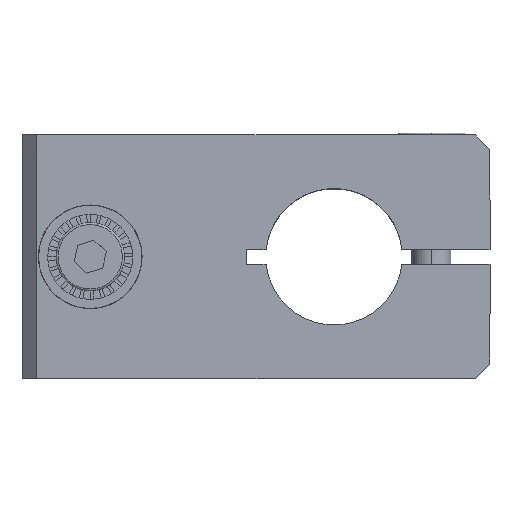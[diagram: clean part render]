
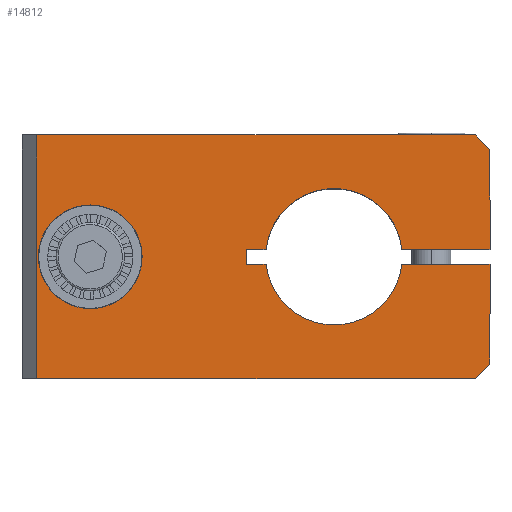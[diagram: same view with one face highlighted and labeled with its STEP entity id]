
A CAD part, top view. The second image highlights one B-rep face of the part: STEP entity #14812.
In plain terms, the highlighted planar face has unit normal (0, 0, 1).
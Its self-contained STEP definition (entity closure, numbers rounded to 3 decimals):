
#13 = CARTESIAN_POINT ( 'NONE',  ( -60.514, -4.601, 8. ) ) ;
#219 = VECTOR ( 'NONE', #19968, 1000. ) ;
#248 = CARTESIAN_POINT ( 'NONE',  ( -37.264, -17.851, 8. ) ) ;
#562 = VERTEX_POINT ( 'NONE', #19388 ) ;
#572 = ORIENTED_EDGE ( 'NONE', *, *, #12027, .F. ) ;
#667 = VERTEX_POINT ( 'NONE', #14430 ) ;
#696 = LINE ( 'NONE', #19678, #19018 ) ;
#731 = DIRECTION ( 'NONE',  ( -1., 0., 0. ) ) ;
#961 = VECTOR ( 'NONE', #14271, 1000. ) ;
#1084 = CARTESIAN_POINT ( 'NONE',  ( -60.224, -4.601, 8. ) ) ;
#1302 = CARTESIAN_POINT ( 'NONE',  ( -62.274, -5.351, 8. ) ) ;
#1915 = CARTESIAN_POINT ( 'NONE',  ( -41.784, -6.101, 8. ) ) ;
#2136 = DIRECTION ( 'NONE',  ( -1., 0., 0. ) ) ;
#2202 = CARTESIAN_POINT ( 'NONE',  ( -37.264, -16.351, 8. ) ) ;
#2330 = EDGE_CURVE ( 'NONE', #17323, #3721, #13939, .T. ) ;
#2651 = ORIENTED_EDGE ( 'NONE', *, *, #2330, .F. ) ;
#2925 = CARTESIAN_POINT ( 'NONE',  ( -83.584, -5.351, 8. ) ) ;
#3159 = ORIENTED_EDGE ( 'NONE', *, *, #19966, .F. ) ;
#3175 = DIRECTION ( 'NONE',  ( 0., 0., 1. ) ) ;
#3443 = ORIENTED_EDGE ( 'NONE', *, *, #9547, .F. ) ;
#3721 = VERTEX_POINT ( 'NONE', #5560 ) ;
#3725 = LINE ( 'NONE', #2202, #7902 ) ;
#3791 = VERTEX_POINT ( 'NONE', #19818 ) ;
#3825 = LINE ( 'NONE', #15020, #8003 ) ;
#3904 = CARTESIAN_POINT ( 'NONE',  ( -60.514, 7.149, 8. ) ) ;
#4320 = EDGE_LOOP ( 'NONE', ( #9525, #11188 ) ) ;
#4331 = DIRECTION ( 'NONE',  ( 1., 0., 0. ) ) ;
#4358 = ORIENTED_EDGE ( 'NONE', *, *, #21503, .F. ) ;
#4432 = LINE ( 'NONE', #13360, #22587 ) ;
#4566 = CARTESIAN_POINT ( 'NONE',  ( -83.764, 7.149, 8. ) ) ;
#4671 = EDGE_CURVE ( 'NONE', #18498, #19985, #4432, .T. ) ;
#4780 = CARTESIAN_POINT ( 'NONE',  ( -38.764, 7.149, 8. ) ) ;
#5297 = LINE ( 'NONE', #7679, #9407 ) ;
#5349 = EDGE_CURVE ( 'NONE', #19985, #19778, #8784, .T. ) ;
#5407 = ORIENTED_EDGE ( 'NONE', *, *, #5349, .F. ) ;
#5517 = CARTESIAN_POINT ( 'NONE',  ( -83.764, -17.851, 8. ) ) ;
#5560 = CARTESIAN_POINT ( 'NONE',  ( -62.274, -6.101, 8. ) ) ;
#5565 = AXIS2_PLACEMENT_3D ( 'NONE', #248, #12747, #2136 ) ;
#5683 = FACE_OUTER_BOUND ( 'NONE', #20944, .T. ) ;
#5824 = VERTEX_POINT ( 'NONE', #1084 ) ;
#5837 = DIRECTION ( 'NONE',  ( 1., 0., 0. ) ) ;
#6028 = ORIENTED_EDGE ( 'NONE', *, *, #16241, .T. ) ;
#6621 = LINE ( 'NONE', #20166, #11281 ) ;
#7102 = VERTEX_POINT ( 'NONE', #21719 ) ;
#7144 = ORIENTED_EDGE ( 'NONE', *, *, #20096, .F. ) ;
#7621 = CARTESIAN_POINT ( 'NONE',  ( -37.264, 5.649, 8. ) ) ;
#7679 = CARTESIAN_POINT ( 'NONE',  ( -60.514, -6.101, 8. ) ) ;
#7902 = VECTOR ( 'NONE', #11073, 1000. ) ;
#8003 = VECTOR ( 'NONE', #20412, 1000. ) ;
#8152 = DIRECTION ( 'NONE',  ( 0.707, -0.707, 0. ) ) ;
#8409 = DIRECTION ( 'NONE',  ( 0., 0., 1. ) ) ;
#8427 = CARTESIAN_POINT ( 'NONE',  ( -37.264, -5.351, 8. ) ) ;
#8719 = ORIENTED_EDGE ( 'NONE', *, *, #10623, .F. ) ;
#8784 = LINE ( 'NONE', #8427, #17572 ) ;
#9158 = PLANE ( 'NONE',  #5565 ) ;
#9407 = VECTOR ( 'NONE', #12881, 1000. ) ;
#9525 = ORIENTED_EDGE ( 'NONE', *, *, #22477, .F. ) ;
#9547 = EDGE_CURVE ( 'NONE', #19778, #3791, #9789, .T. ) ;
#9789 = LINE ( 'NONE', #18125, #219 ) ;
#10296 = CARTESIAN_POINT ( 'NONE',  ( -37.264, -4.601, 8. ) ) ;
#10525 = DIRECTION ( 'NONE',  ( 0., 0., 1. ) ) ;
#10588 = VECTOR ( 'NONE', #12526, 1000. ) ;
#10623 = EDGE_CURVE ( 'NONE', #18106, #21188, #696, .T. ) ;
#10933 = ORIENTED_EDGE ( 'NONE', *, *, #19102, .T. ) ;
#11073 = DIRECTION ( 'NONE',  ( -0.707, -0.707, 0. ) ) ;
#11138 = LINE ( 'NONE', #13, #10588 ) ;
#11188 = ORIENTED_EDGE ( 'NONE', *, *, #13577, .F. ) ;
#11281 = VECTOR ( 'NONE', #4331, 1000. ) ;
#11464 = DIRECTION ( 'NONE',  ( 0., 0., 1. ) ) ;
#11491 = VECTOR ( 'NONE', #5837, 1000. ) ;
#11753 = CARTESIAN_POINT ( 'NONE',  ( -38.764, -17.851, 8. ) ) ;
#12027 = EDGE_CURVE ( 'NONE', #21188, #18498, #16152, .T. ) ;
#12526 = DIRECTION ( 'NONE',  ( -1., 0., 0. ) ) ;
#12574 = AXIS2_PLACEMENT_3D ( 'NONE', #21030, #10525, #22816 ) ;
#12747 = DIRECTION ( 'NONE',  ( 0., 0., -1. ) ) ;
#12814 = CIRCLE ( 'NONE', #17981, 7. ) ;
#12881 = DIRECTION ( 'NONE',  ( 1., 0., 0. ) ) ;
#13145 = EDGE_CURVE ( 'NONE', #3791, #5824, #18463, .T. ) ;
#13360 = CARTESIAN_POINT ( 'NONE',  ( -38.764, 7.149, 8. ) ) ;
#13577 = EDGE_CURVE ( 'NONE', #20252, #22898, #22348, .T. ) ;
#13717 = CARTESIAN_POINT ( 'NONE',  ( -78.264, -5.351, 8. ) ) ;
#13939 = LINE ( 'NONE', #1302, #18649 ) ;
#14239 = ORIENTED_EDGE ( 'NONE', *, *, #21972, .F. ) ;
#14271 = DIRECTION ( 'NONE',  ( 1., 0., 0. ) ) ;
#14404 = FACE_BOUND ( 'NONE', #4320, .T. ) ;
#14430 = CARTESIAN_POINT ( 'NONE',  ( -37.264, -16.351, 8. ) ) ;
#14557 = LINE ( 'NONE', #1915, #961 ) ;
#14812 = ADVANCED_FACE ( 'NONE', ( #14404, #5683 ), #9158, .F. ) ;
#15020 = CARTESIAN_POINT ( 'NONE',  ( -37.264, -11.226, 8. ) ) ;
#15513 = DIRECTION ( 'NONE',  ( 1., 0., 0. ) ) ;
#15948 = ORIENTED_EDGE ( 'NONE', *, *, #13145, .F. ) ;
#16074 = EDGE_CURVE ( 'NONE', #3721, #19642, #5297, .T. ) ;
#16152 = LINE ( 'NONE', #3904, #11491 ) ;
#16241 = EDGE_CURVE ( 'NONE', #667, #562, #3825, .T. ) ;
#16919 = CARTESIAN_POINT ( 'NONE',  ( -62.274, -4.601, 8. ) ) ;
#17323 = VERTEX_POINT ( 'NONE', #16919 ) ;
#17572 = VECTOR ( 'NONE', #22548, 1000. ) ;
#17847 = AXIS2_PLACEMENT_3D ( 'NONE', #13717, #3175, #15513 ) ;
#17865 = VERTEX_POINT ( 'NONE', #11753 ) ;
#17981 = AXIS2_PLACEMENT_3D ( 'NONE', #21963, #11464, #731 ) ;
#18106 = VERTEX_POINT ( 'NONE', #5517 ) ;
#18125 = CARTESIAN_POINT ( 'NONE',  ( -60.514, -4.601, 8. ) ) ;
#18463 = CIRCLE ( 'NONE', #19142, 7. ) ;
#18498 = VERTEX_POINT ( 'NONE', #4780 ) ;
#18649 = VECTOR ( 'NONE', #22278, 1000. ) ;
#18663 = ORIENTED_EDGE ( 'NONE', *, *, #16074, .F. ) ;
#18785 = CARTESIAN_POINT ( 'NONE',  ( -72.944, -5.351, 8. ) ) ;
#18903 = CARTESIAN_POINT ( 'NONE',  ( -53.264, -5.351, 8. ) ) ;
#19018 = VECTOR ( 'NONE', #19754, 1000. ) ;
#19102 = EDGE_CURVE ( 'NONE', #18106, #17865, #6621, .T. ) ;
#19142 = AXIS2_PLACEMENT_3D ( 'NONE', #18903, #8409, #20701 ) ;
#19388 = CARTESIAN_POINT ( 'NONE',  ( -37.264, -6.101, 8. ) ) ;
#19642 = VERTEX_POINT ( 'NONE', #20455 ) ;
#19678 = CARTESIAN_POINT ( 'NONE',  ( -83.764, -5.351, 8. ) ) ;
#19754 = DIRECTION ( 'NONE',  ( 0., 1., 0. ) ) ;
#19778 = VERTEX_POINT ( 'NONE', #10296 ) ;
#19818 = CARTESIAN_POINT ( 'NONE',  ( -46.304, -4.601, 8. ) ) ;
#19966 = EDGE_CURVE ( 'NONE', #667, #17865, #3725, .T. ) ;
#19968 = DIRECTION ( 'NONE',  ( -1., 0., 0. ) ) ;
#19985 = VERTEX_POINT ( 'NONE', #7621 ) ;
#20096 = EDGE_CURVE ( 'NONE', #19642, #7102, #12814, .T. ) ;
#20166 = CARTESIAN_POINT ( 'NONE',  ( -62.014, -17.851, 8. ) ) ;
#20252 = VERTEX_POINT ( 'NONE', #2925 ) ;
#20412 = DIRECTION ( 'NONE',  ( 0., 1., 0. ) ) ;
#20455 = CARTESIAN_POINT ( 'NONE',  ( -60.224, -6.101, 8. ) ) ;
#20520 = ORIENTED_EDGE ( 'NONE', *, *, #4671, .F. ) ;
#20701 = DIRECTION ( 'NONE',  ( -1., 0., 0. ) ) ;
#20705 = CIRCLE ( 'NONE', #12574, 5.32 ) ;
#20944 = EDGE_LOOP ( 'NONE', ( #8719, #10933, #3159, #6028, #4358, #7144, #18663, #2651, #14239, #15948, #3443, #5407, #20520, #572 ) ) ;
#21030 = CARTESIAN_POINT ( 'NONE',  ( -78.264, -5.351, 8. ) ) ;
#21188 = VERTEX_POINT ( 'NONE', #4566 ) ;
#21503 = EDGE_CURVE ( 'NONE', #7102, #562, #14557, .T. ) ;
#21719 = CARTESIAN_POINT ( 'NONE',  ( -46.304, -6.101, 8. ) ) ;
#21963 = CARTESIAN_POINT ( 'NONE',  ( -53.264, -5.351, 8. ) ) ;
#21972 = EDGE_CURVE ( 'NONE', #5824, #17323, #11138, .T. ) ;
#22278 = DIRECTION ( 'NONE',  ( 0., -1., 0. ) ) ;
#22348 = CIRCLE ( 'NONE', #17847, 5.32 ) ;
#22477 = EDGE_CURVE ( 'NONE', #22898, #20252, #20705, .T. ) ;
#22548 = DIRECTION ( 'NONE',  ( 0., -1., 0. ) ) ;
#22587 = VECTOR ( 'NONE', #8152, 1000. ) ;
#22816 = DIRECTION ( 'NONE',  ( 1., 0., 0. ) ) ;
#22898 = VERTEX_POINT ( 'NONE', #18785 ) ;
